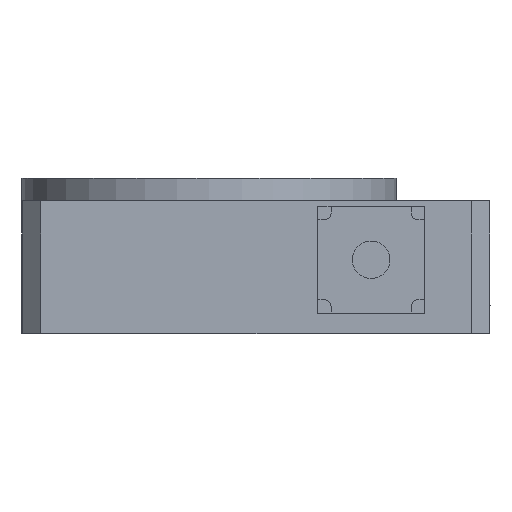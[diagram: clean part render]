
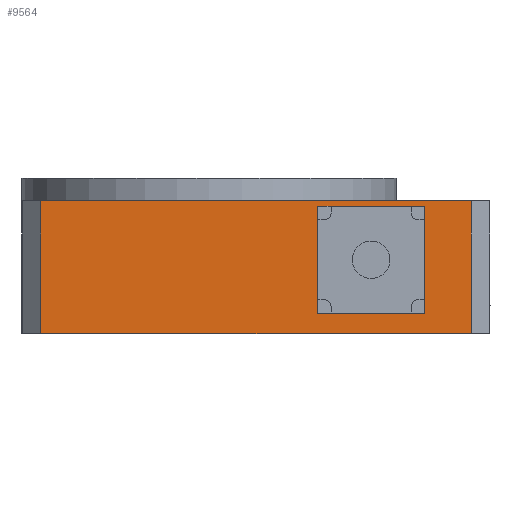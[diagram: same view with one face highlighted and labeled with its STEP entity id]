
A CAD part, front view. The second image highlights one B-rep face of the part: STEP entity #9564.
In plain terms, the highlighted planar face has unit normal (0, -1, 0).
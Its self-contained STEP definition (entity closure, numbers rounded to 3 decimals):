
#79 = AXIS2_PLACEMENT_3D ( 'NONE', #3173, #7097, #2108 ) ;
#633 = CARTESIAN_POINT ( 'NONE',  ( -40.276, -176.879, 0. ) ) ;
#657 = LINE ( 'NONE', #10187, #8206 ) ;
#797 = FACE_BOUND ( 'NONE', #6409, .T. ) ;
#806 = VERTEX_POINT ( 'NONE', #9556 ) ;
#992 = VERTEX_POINT ( 'NONE', #8315 ) ;
#1106 = FACE_OUTER_BOUND ( 'NONE', #5461, .T. ) ;
#1143 = ORIENTED_EDGE ( 'NONE', *, *, #2180, .F. ) ;
#1651 = DIRECTION ( 'NONE',  ( 0., 0., 1. ) ) ;
#1970 = DIRECTION ( 'NONE',  ( 0., 0., -1. ) ) ;
#2108 = DIRECTION ( 'NONE',  ( 0., 0., 1. ) ) ;
#2180 = EDGE_CURVE ( 'NONE', #4293, #10102, #2735, .T. ) ;
#2345 = LINE ( 'NONE', #10563, #6962 ) ;
#2401 = VERTEX_POINT ( 'NONE', #12696 ) ;
#2479 = CARTESIAN_POINT ( 'NONE',  ( -30.276, -176.879, 11. ) ) ;
#2502 = VECTOR ( 'NONE', #10241, 1000. ) ;
#2610 = CARTESIAN_POINT ( 'NONE',  ( 199.724, -176.879, 0. ) ) ;
#2735 = LINE ( 'NONE', #12405, #6440 ) ;
#3173 = CARTESIAN_POINT ( 'NONE',  ( -30.276, -176.879, 83. ) ) ;
#3235 = CARTESIAN_POINT ( 'NONE',  ( 174.724, -176.879, 11. ) ) ;
#3249 = EDGE_CURVE ( 'NONE', #10102, #3808, #8235, .T. ) ;
#3614 = EDGE_CURVE ( 'NONE', #5739, #992, #4847, .T. ) ;
#3808 = VERTEX_POINT ( 'NONE', #5936 ) ;
#3895 = EDGE_CURVE ( 'NONE', #4744, #5739, #6077, .T. ) ;
#4014 = ORIENTED_EDGE ( 'NONE', *, *, #8822, .T. ) ;
#4080 = LINE ( 'NONE', #4223, #6545 ) ;
#4223 = CARTESIAN_POINT ( 'NONE',  ( -30.276, -176.879, 71. ) ) ;
#4293 = VERTEX_POINT ( 'NONE', #3235 ) ;
#4314 = DIRECTION ( 'NONE',  ( 0., 0., -1. ) ) ;
#4545 = VECTOR ( 'NONE', #12300, 1000. ) ;
#4710 = CARTESIAN_POINT ( 'NONE',  ( 174.724, -176.879, 68. ) ) ;
#4744 = VERTEX_POINT ( 'NONE', #9148 ) ;
#4803 = LINE ( 'NONE', #10281, #2502 ) ;
#4847 = LINE ( 'NONE', #633, #4545 ) ;
#4993 = ORIENTED_EDGE ( 'NONE', *, *, #7566, .F. ) ;
#5173 = DIRECTION ( 'NONE',  ( 1., 0., 0. ) ) ;
#5238 = EDGE_CURVE ( 'NONE', #3808, #2401, #4803, .T. ) ;
#5240 = ORIENTED_EDGE ( 'NONE', *, *, #6067, .F. ) ;
#5461 = EDGE_LOOP ( 'NONE', ( #4014, #8473, #5657, #4993, #5240 ) ) ;
#5657 = ORIENTED_EDGE ( 'NONE', *, *, #3895, .F. ) ;
#5739 = VERTEX_POINT ( 'NONE', #2610 ) ;
#5936 = CARTESIAN_POINT ( 'NONE',  ( 117.724, -176.879, 68. ) ) ;
#6067 = EDGE_CURVE ( 'NONE', #10986, #806, #2345, .T. ) ;
#6077 = LINE ( 'NONE', #7791, #7163 ) ;
#6149 = PLANE ( 'NONE',  #79 ) ;
#6409 = EDGE_LOOP ( 'NONE', ( #7676, #1143, #7191, #8058 ) ) ;
#6440 = VECTOR ( 'NONE', #1651, 1000. ) ;
#6545 = VECTOR ( 'NONE', #5173, 1000. ) ;
#6962 = VECTOR ( 'NONE', #7618, 1000. ) ;
#6968 = CARTESIAN_POINT ( 'NONE',  ( -30.276, -176.879, 71. ) ) ;
#7097 = DIRECTION ( 'NONE',  ( 0., 1., 0. ) ) ;
#7163 = VECTOR ( 'NONE', #1970, 1000. ) ;
#7191 = ORIENTED_EDGE ( 'NONE', *, *, #9735, .F. ) ;
#7566 = EDGE_CURVE ( 'NONE', #806, #4744, #4080, .T. ) ;
#7618 = DIRECTION ( 'NONE',  ( 1., 0., 0. ) ) ;
#7676 = ORIENTED_EDGE ( 'NONE', *, *, #3249, .F. ) ;
#7791 = CARTESIAN_POINT ( 'NONE',  ( 199.724, -176.879, 83. ) ) ;
#7792 = DIRECTION ( 'NONE',  ( -1., 0., 0. ) ) ;
#8058 = ORIENTED_EDGE ( 'NONE', *, *, #5238, .F. ) ;
#8206 = VECTOR ( 'NONE', #4314, 1000. ) ;
#8235 = LINE ( 'NONE', #12703, #11162 ) ;
#8315 = CARTESIAN_POINT ( 'NONE',  ( -30.276, -176.879, 0. ) ) ;
#8473 = ORIENTED_EDGE ( 'NONE', *, *, #3614, .F. ) ;
#8822 = EDGE_CURVE ( 'NONE', #10986, #992, #657, .T. ) ;
#9148 = CARTESIAN_POINT ( 'NONE',  ( 199.724, -176.879, 71. ) ) ;
#9556 = CARTESIAN_POINT ( 'NONE',  ( 59.724, -176.879, 71. ) ) ;
#9564 = ADVANCED_FACE ( 'NONE', ( #1106, #797 ), #6149, .F. ) ;
#9735 = EDGE_CURVE ( 'NONE', #2401, #4293, #12593, .T. ) ;
#10102 = VERTEX_POINT ( 'NONE', #4710 ) ;
#10187 = CARTESIAN_POINT ( 'NONE',  ( -30.276, -176.879, 83. ) ) ;
#10241 = DIRECTION ( 'NONE',  ( 0., 0., -1. ) ) ;
#10281 = CARTESIAN_POINT ( 'NONE',  ( 117.724, -176.879, 83. ) ) ;
#10563 = CARTESIAN_POINT ( 'NONE',  ( -30.276, -176.879, 71. ) ) ;
#10788 = VECTOR ( 'NONE', #11289, 1000. ) ;
#10986 = VERTEX_POINT ( 'NONE', #6968 ) ;
#11162 = VECTOR ( 'NONE', #7792, 1000. ) ;
#11289 = DIRECTION ( 'NONE',  ( 1., 0., 0. ) ) ;
#12300 = DIRECTION ( 'NONE',  ( -1., 0., 0. ) ) ;
#12405 = CARTESIAN_POINT ( 'NONE',  ( 174.724, -176.879, 83. ) ) ;
#12593 = LINE ( 'NONE', #2479, #10788 ) ;
#12696 = CARTESIAN_POINT ( 'NONE',  ( 117.724, -176.879, 11. ) ) ;
#12703 = CARTESIAN_POINT ( 'NONE',  ( -30.276, -176.879, 68. ) ) ;
